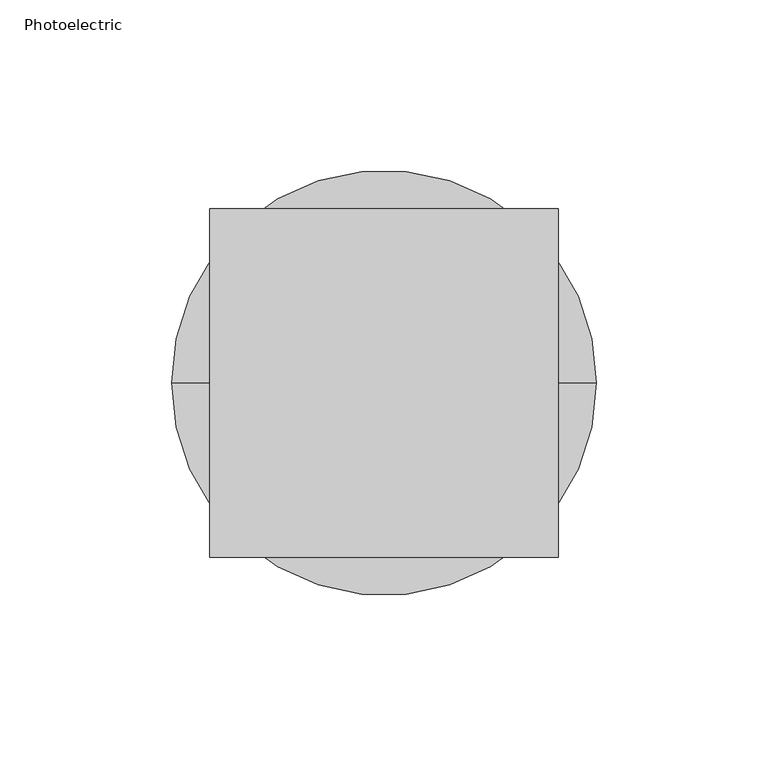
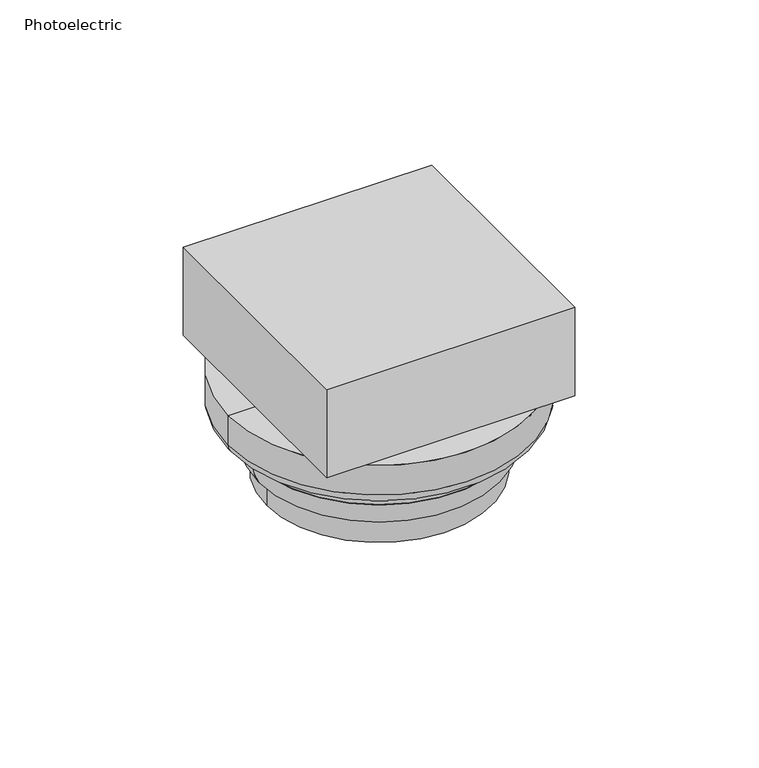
"""IFC4 building model written with IfcOpenShell, lengths in millimetres: alarm geometry, OMAHA - Smoke Detector : Photoelectric."""

from ifc_helpers import new_model, si_unit, point, frame, origin, origin_with_axes, place, context, project, spatial, polyline, circle_curve, ellipse_curve, trimmed, outline, extrude, source, transform, mapped, element, save
from ifc_brep_helpers import plane_surface, cylinder_surface, revolved_surface, advanced_brep


def photoelectric_03d0f650(model_context):
    return source(origin(), model_context, "Body", "SolidModel", [
        extrude(outline(polyline([(50.8, 50.8), (50.8, -50.8), (-50.8, -50.8), (-50.8, 50.8), (50.8, 50.8)])), origin_with_axes(), (0.0, 0.0, 1.0), 38.1),
        advanced_brep(
        [(-46.0375, 0.0, 0.0), (46.0375, 0.0, 0.0), (46.0375, 0.0, -44.45), (-46.0375, 0.0, -44.45), (0.0, 0.0, 0.0), (0.0, 0.0, -53.975)],
        [
            (0, 1, circle_curve(frame((0.0, 0.0, 0.0), z_axis=(0.0, 0.0, -1.0), x_axis=(1.0, 0.0, 0.0)), 46.0375)),
            (1, 2),
            (2, 3, circle_curve(frame((0.0, 0.0, -44.45), z_axis=(0.0, 0.0, 1.0), x_axis=(1.0, 0.0, 0.0)), 46.0375)),
            (3, 0),
            (1, 0, circle_curve(frame((0.0, 0.0, 0.0), z_axis=(0.0, 0.0, -1.0), x_axis=(1.0, 0.0, 0.0)), 46.0375)),
            (3, 2, circle_curve(frame((0.0, 0.0, -44.45), z_axis=(0.0, 0.0, 1.0), x_axis=(1.0, 0.0, 0.0)), 46.0375)),
            (4, 1),
            (0, 4),
            (2, 5, circle_curve(frame((2.3341045, 0.0, 50.7632868), z_axis=(0.0, 1.0, 0.0), x_axis=(1.0, 0.0, 0.0)), 104.7642915)),
            (5, 3, circle_curve(frame((-2.3341045, 0.0, 50.7632868), z_axis=(0.0, 1.0, 0.0), x_axis=(-1.0, 0.0, 0.0)), 104.7642915)),
        ],
        [
            cylinder_surface(frame((0.0, 0.0, 2609.1570255), z_axis=(0.0, 0.0, 1.0), x_axis=(1.0, 0.0, 0.0)), 46.0375),
            plane_surface(origin_with_axes()),
            revolved_surface(trimmed(ellipse_curve(frame((2.3341045, 0.0, 50.7632868), z_axis=(0.0, -1.0, 0.0), x_axis=(1.0, 0.0, 0.0)), 104.7642915, 104.7642915), [point((0.0, 0.0, -53.975))], [point((46.0375, 0.0, -44.45))], True, "CARTESIAN"), (0.0, 0.0, 2609.1570255), (0.0, 0.0, 1.0)),
        ],
        [
            (0, [[1, 2, 3, 4]]),
            (0, [[5, -4, 6, -2]]),
            (1, [[7, -1, 8]]),
            (1, [[-8, -5, -7]]),
            (2, [[-3, 9, 10]]),
            (2, [[-6, -10, -9]]),
        ],
    ),
        advanced_brep(
        [(-52.3875, 0.0, -23.8125), (52.3875, 0.0, -23.8125), (49.2125, 0.0, -33.3375), (-49.2125, 0.0, -33.3375), (0.0, 0.0, -23.8125), (0.0, 0.0, -33.3375)],
        [
            (0, 1, circle_curve(frame((0.0, 0.0, -23.8125), z_axis=(0.0, 0.0, -1.0), x_axis=(1.0, 0.0, 0.0)), 52.3875)),
            (1, 2, circle_curve(frame((24.3613837, 0.0, -19.7621279), z_axis=(0.0, 1.0, 0.0), x_axis=(1.0, 0.0, 0.0)), 28.3172864)),
            (2, 3, circle_curve(frame((0.0, 0.0, -33.3375), z_axis=(0.0, 0.0, 1.0), x_axis=(1.0, 0.0, 0.0)), 49.2125)),
            (3, 0, circle_curve(frame((-24.3613837, 0.0, -19.7621279), z_axis=(0.0, 1.0, 0.0), x_axis=(-1.0, 0.0, 0.0)), 28.3172864)),
            (1, 0, circle_curve(frame((0.0, 0.0, -23.8125), z_axis=(0.0, 0.0, -1.0), x_axis=(1.0, 0.0, 0.0)), 52.3875)),
            (3, 2, circle_curve(frame((0.0, 0.0, -33.3375), z_axis=(0.0, 0.0, 1.0), x_axis=(1.0, 0.0, 0.0)), 49.2125)),
            (4, 1),
            (0, 4),
            (2, 5),
            (5, 3),
        ],
        [
            revolved_surface(trimmed(ellipse_curve(frame((24.3613837, 0.0, -19.7621279), z_axis=(0.0, -1.0, 0.0), x_axis=(1.0, 0.0, 0.0)), 28.3172864, 28.3172864), [point((49.2125, 0.0, -33.3375))], [point((52.3875, 0.0, -23.8125))], True, "CARTESIAN"), (0.0, 0.0, 2609.0581012), (0.0, 0.0, 1.0)),
            plane_surface(frame((0.0, 0.0, -23.8125), z_axis=(0.0, 0.0, 1.0), x_axis=(1.0, 0.0, 0.0))),
            plane_surface(frame((0.0, 0.0, -33.3375), z_axis=(0.0, 0.0, -1.0), x_axis=(1.0, 0.0, 0.0))),
        ],
        [
            (0, [[1, 2, 3, 4]]),
            (0, [[5, -4, 6, -2]]),
            (1, [[7, -1, 8]]),
            (1, [[-8, -5, -7]]),
            (2, [[-3, 9, 10]]),
            (2, [[-6, -10, -9]]),
        ],
    ),
        advanced_brep(
        [(-61.9125, 0.0, 0.0), (61.9125, 0.0, 0.0), (61.9125, 0.0, -12.7), (-61.9125, 0.0, -12.7), (0.0, 0.0, 0.0), (-52.3875, 0.0, -23.8125), (52.3875, 0.0, -23.8125), (0.0, 0.0, -23.8125), (-56.4746165, 0.0, -18.0869784), (56.4746165, 0.0, -18.0869784), (-58.5584801, 0.0, -17.4523584), (58.5584801, 0.0, -17.4523584)],
        [
            (0, 1, circle_curve(frame((0.0, 0.0, 0.0), z_axis=(0.0, 0.0, -1.0), x_axis=(1.0, 0.0, 0.0)), 61.9125)),
            (1, 2),
            (2, 3, circle_curve(frame((0.0, 0.0, -12.7), z_axis=(0.0, 0.0, 1.0), x_axis=(1.0, 0.0, 0.0)), 61.9125)),
            (3, 0),
            (1, 0, circle_curve(frame((0.0, 0.0, 0.0), z_axis=(0.0, 0.0, -1.0), x_axis=(1.0, 0.0, 0.0)), 61.9125)),
            (3, 2, circle_curve(frame((0.0, 0.0, -12.7), z_axis=(0.0, 0.0, 1.0), x_axis=(1.0, 0.0, 0.0)), 61.9125)),
            (4, 1),
            (0, 4),
            (5, 6, circle_curve(frame((0.0, 0.0, -23.8125), z_axis=(0.0, 0.0, -1.0), x_axis=(1.0, 0.0, 0.0)), 52.3875)),
            (6, 7),
            (7, 5),
            (6, 5, circle_curve(frame((0.0, 0.0, -23.8125), z_axis=(0.0, 0.0, -1.0), x_axis=(1.0, 0.0, 0.0)), 52.3875)),
            (8, 9, circle_curve(frame((0.0, 0.0, -18.0869784), z_axis=(0.0, 0.0, -1.0), x_axis=(1.0, 0.0, 0.0)), 56.4746165)),
            (9, 6, circle_curve(frame((58.4928982, 0.0, -23.8492502), z_axis=(0.0, -1.0, 0.0), x_axis=(1.0, 0.0, 0.0)), 6.1055089)),
            (5, 8, circle_curve(frame((-58.4928982, 0.0, -23.8492502), z_axis=(0.0, -1.0, 0.0), x_axis=(-1.0, 0.0, 0.0)), 6.1055089)),
            (9, 8, circle_curve(frame((0.0, 0.0, -18.0869784), z_axis=(0.0, 0.0, -1.0), x_axis=(1.0, 0.0, 0.0)), 56.4746165)),
            (10, 11, circle_curve(frame((0.0, 0.0, -17.4523584), z_axis=(0.0, 0.0, -1.0), x_axis=(1.0, 0.0, 0.0)), 58.5584801)),
            (11, 9),
            (8, 10),
            (11, 10, circle_curve(frame((0.0, 0.0, -17.4523584), z_axis=(0.0, 0.0, -1.0), x_axis=(1.0, 0.0, 0.0)), 58.5584801)),
            (2, 11, circle_curve(frame((56.868648, 0.0, -12.7), z_axis=(0.0, 1.0, 0.0), x_axis=(1.0, 0.0, 0.0)), 5.043852)),
            (10, 3, circle_curve(frame((-56.868648, 0.0, -12.7), z_axis=(0.0, 1.0, 0.0), x_axis=(-1.0, 0.0, 0.0)), 5.043852)),
        ],
        [
            cylinder_surface(frame((0.0, 0.0, 2609.0581012), z_axis=(0.0, 0.0, 1.0), x_axis=(1.0, 0.0, 0.0)), 61.9125),
            plane_surface(origin_with_axes()),
            plane_surface(frame((0.0, 0.0, -23.8125), z_axis=(0.0, 0.0, -1.0), x_axis=(1.0, 0.0, 0.0))),
            revolved_surface(trimmed(ellipse_curve(frame((58.4928982, 0.0, -23.8492502), z_axis=(0.0, 1.0, 0.0), x_axis=(1.0, 0.0, 0.0)), 6.1055089, 6.1055089), [point((52.3875, 0.0, -23.8125))], [point((56.4746165, 0.0, -18.0869784))], True, "CARTESIAN"), (0.0, 0.0, 2609.0581012), (0.0, 0.0, 1.0)),
            revolved_surface(polyline([(56.4746165, 0.0, -18.0869784), (58.5584801, 0.0, -17.4523584)]), (0.0, 0.0, 2609.0581012), (0.0, 0.0, 1.0)),
            revolved_surface(trimmed(ellipse_curve(frame((56.868648, 0.0, -12.7), z_axis=(0.0, -1.0, 0.0), x_axis=(1.0, 0.0, 0.0)), 5.043852, 5.043852), [point((58.5584801, 0.0, -17.4523584))], [point((61.9125, 0.0, -12.7))], True, "CARTESIAN"), (0.0, 0.0, 2609.0581012), (0.0, 0.0, 1.0)),
        ],
        [
            (0, [[1, 2, 3, 4]]),
            (0, [[5, -4, 6, -2]]),
            (1, [[7, -1, 8]]),
            (1, [[-8, -5, -7]]),
            (2, [[9, 10, 11]]),
            (2, [[12, -11, -10]]),
            (3, [[13, 14, -9, 15]]),
            (3, [[16, -15, -12, -14]]),
            (4, [[17, 18, -13, 19]]),
            (4, [[20, -19, -16, -18]]),
            (5, [[-3, 21, -17, 22]]),
            (5, [[-6, -22, -20, -21]]),
        ],
    ),
    ])


if __name__ == "__main__":
    model = new_model("IFC4")
    model_context = context("Model", 3, world=origin())
    ifc_project = project(units=[si_unit("LENGTHUNIT", "METRE", prefix="MILLI")], contexts=[model_context])
    site = spatial("IfcSite", under=ifc_project)
    building = spatial("IfcBuilding", under=site)
    placement = place(None, origin())
    photoelectric_shape = photoelectric_03d0f650(model_context)
    element("IfcAlarm", 1, ObjectType="OMAHA - Smoke Detector : Photoelectric", at=placement, inside=building, context=model_context, shape_type="MappedRepresentation", body=[
        mapped(photoelectric_shape, transform((0.0, 0.0, 0.0), x_axis=(1.0, 0.0, 0.0), y_axis=(0.0, 1.0, 0.0), z_axis=(0.0, 0.0, 1.0))),
    ])
    save(model, "model.ifc")
